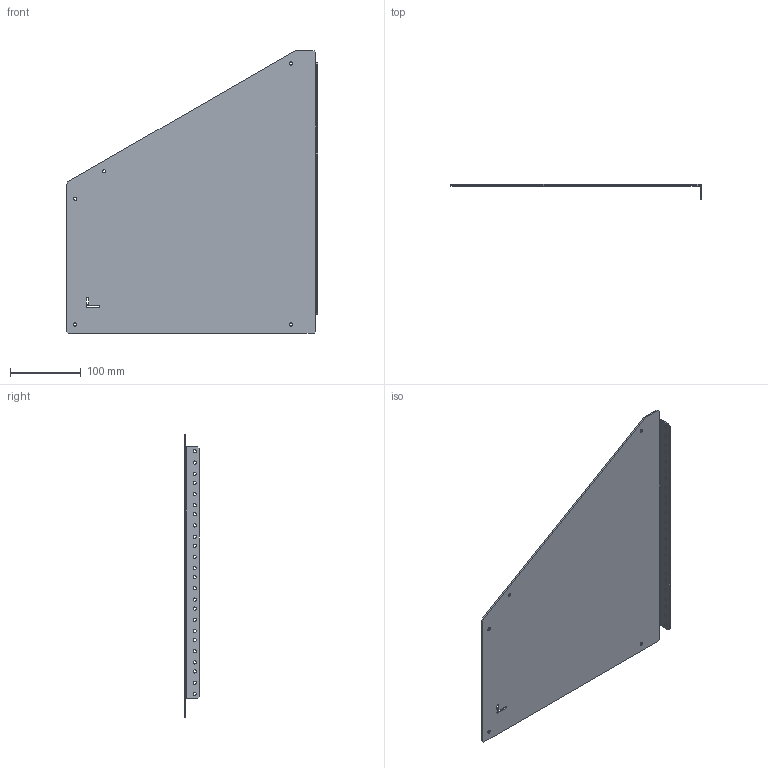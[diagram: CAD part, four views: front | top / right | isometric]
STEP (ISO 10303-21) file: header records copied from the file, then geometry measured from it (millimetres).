
FILE_DESCRIPTION(/* description */ ('Unknown'),/* implementation_level */ '2;1');
FILE_NAME(/* name */ 'HLP8UFR',/* time_stamp */ '2021-10-28T11:32:01-04:00',/* author */ ('Unknown'),/* organization */ ('Unknown'),/* preprocessor_version */ 'ST-DEVELOPER v16.7',/* originating_system */ 'Solid Edge',/* authorisation */ 'Unknown');
FILE_SCHEMA (('AUTOMOTIVE_DESIGN {1 0 10303 214 3 1 1}'));
Length unit declared in the file: millimetre
Products named in the file (1): COM57381-8L
Bounding box: 355.6 x 21.13 x 400.05 mm (x, y, z)
Volume: 215578.3 mm3; surface area: 239192.5 mm2
Topology: 1 solids, 1 shells, 58 faces, 188 edges, 132 vertices
Faces by surface type: cylinder 35, plane 23
Full cylindrical faces by diameter (mm): 4.496 x29
Entity records: 1906 total; most frequent: DIRECTION 323, CARTESIAN_POINT 302, ORIENTED_EDGE 270, EDGE_LOOP 149, FACE_BOUND 149, EDGE_CURVE 135, AXIS2_PLACEMENT_3D 129, VERTEX_POINT 108
